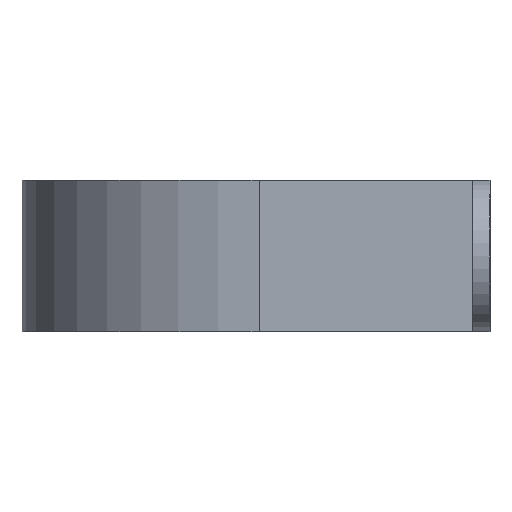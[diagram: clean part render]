
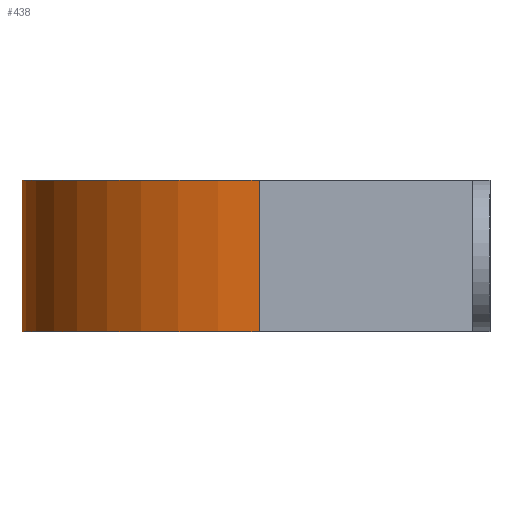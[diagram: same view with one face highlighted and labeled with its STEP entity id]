
A CAD part, left-side view. The second image highlights one B-rep face of the part: STEP entity #438.
In plain terms, the highlighted cylindrical face has radius 31.3 mm (diameter 62.6 mm), a partial arc.
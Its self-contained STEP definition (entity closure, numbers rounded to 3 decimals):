
#4 = VERTEX_POINT ( 'NONE', #777 ) ;
#12 = DIRECTION ( 'NONE',  ( 0., 0., -1. ) ) ;
#29 = AXIS2_PLACEMENT_3D ( 'NONE', #70, #639, #278 ) ;
#68 = ORIENTED_EDGE ( 'NONE', *, *, #575, .T. ) ;
#70 = CARTESIAN_POINT ( 'NONE',  ( 0., 30.5, 10. ) ) ;
#103 = EDGE_CURVE ( 'NONE', #366, #234, #558, .T. ) ;
#133 = CARTESIAN_POINT ( 'NONE',  ( 31.3, 30.5, 10. ) ) ;
#149 = CARTESIAN_POINT ( 'NONE',  ( -31.3, 30.5, -10. ) ) ;
#185 = DIRECTION ( 'NONE',  ( 0., 0., -1. ) ) ;
#227 = AXIS2_PLACEMENT_3D ( 'NONE', #443, #609, #594 ) ;
#234 = VERTEX_POINT ( 'NONE', #240 ) ;
#240 = CARTESIAN_POINT ( 'NONE',  ( 31.3, 30.5, -10. ) ) ;
#266 = CIRCLE ( 'NONE', #431, 31.3 ) ;
#278 = DIRECTION ( 'NONE',  ( -1., 0., 0. ) ) ;
#337 = CIRCLE ( 'NONE', #227, 31.3 ) ;
#366 = VERTEX_POINT ( 'NONE', #133 ) ;
#374 = VECTOR ( 'NONE', #12, 1000. ) ;
#384 = CARTESIAN_POINT ( 'NONE',  ( 0., 30.5, 10. ) ) ;
#416 = ORIENTED_EDGE ( 'NONE', *, *, #865, .F. ) ;
#431 = AXIS2_PLACEMENT_3D ( 'NONE', #384, #534, #611 ) ;
#438 = ADVANCED_FACE ( 'NONE', ( #711 ), #851, .T. ) ;
#443 = CARTESIAN_POINT ( 'NONE',  ( 0., 30.5, -10. ) ) ;
#475 = EDGE_LOOP ( 'NONE', ( #68, #416, #601, #532 ) ) ;
#512 = EDGE_CURVE ( 'NONE', #366, #4, #266, .T. ) ;
#532 = ORIENTED_EDGE ( 'NONE', *, *, #103, .T. ) ;
#534 = DIRECTION ( 'NONE',  ( 0., 0., 1. ) ) ;
#558 = LINE ( 'NONE', #579, #374 ) ;
#575 = EDGE_CURVE ( 'NONE', #234, #895, #337, .T. ) ;
#579 = CARTESIAN_POINT ( 'NONE',  ( 31.3, 30.5, 10. ) ) ;
#594 = DIRECTION ( 'NONE',  ( 1., 0., 0. ) ) ;
#601 = ORIENTED_EDGE ( 'NONE', *, *, #512, .F. ) ;
#609 = DIRECTION ( 'NONE',  ( 0., 0., 1. ) ) ;
#611 = DIRECTION ( 'NONE',  ( -1., 0., 0. ) ) ;
#626 = LINE ( 'NONE', #829, #824 ) ;
#639 = DIRECTION ( 'NONE',  ( 0., 0., -1. ) ) ;
#711 = FACE_OUTER_BOUND ( 'NONE', #475, .T. ) ;
#777 = CARTESIAN_POINT ( 'NONE',  ( -31.3, 30.5, 10. ) ) ;
#824 = VECTOR ( 'NONE', #185, 1000. ) ;
#829 = CARTESIAN_POINT ( 'NONE',  ( -31.3, 30.5, 10. ) ) ;
#851 = CYLINDRICAL_SURFACE ( 'NONE', #29, 31.3 ) ;
#865 = EDGE_CURVE ( 'NONE', #4, #895, #626, .T. ) ;
#895 = VERTEX_POINT ( 'NONE', #149 ) ;
